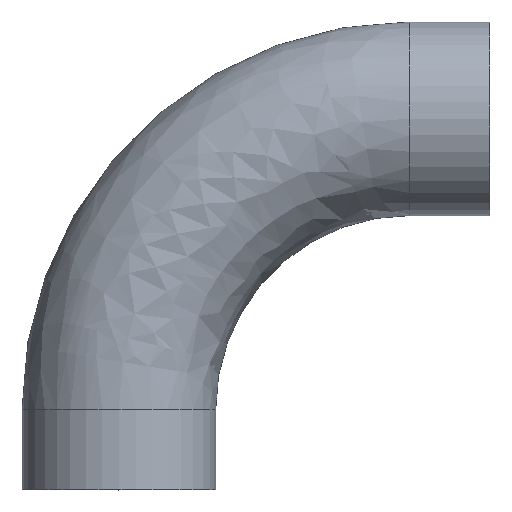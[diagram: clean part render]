
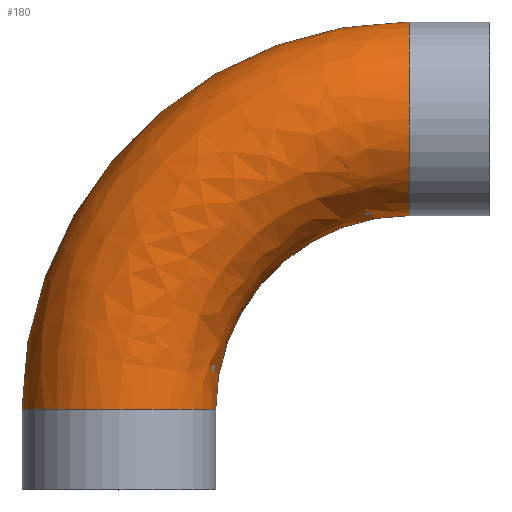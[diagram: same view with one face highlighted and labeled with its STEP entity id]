
A CAD part, top view. The second image highlights one B-rep face of the part: STEP entity #180.
In plain terms, the highlighted free-form (B-spline) face has degree [3, 3] with [4, 4] control points.
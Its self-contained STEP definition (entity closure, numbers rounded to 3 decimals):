
#4 = AXIS2_PLACEMENT_3D ( 'NONE', #211, #291, #314 ) ;
#38 = CARTESIAN_POINT ( 'NONE',  ( 228.6, 215.9, 0. ) ) ;
#50 = CARTESIAN_POINT ( 'NONE',  ( 228.6, 215.9, 0. ) ) ;
#57 = CARTESIAN_POINT ( 'NONE',  ( 76.2, 152.774, 152.4 ) ) ;
#72 = CARTESIAN_POINT ( 'NONE',  ( 139.326, 215.9, 0. ) ) ;
#89 = EDGE_CURVE ( 'NONE', #201, #189, #414, .T. ) ;
#94 = CARTESIAN_POINT ( 'NONE',  ( 0., 63.5, 0. ) ) ;
#95 = CARTESIAN_POINT ( 'NONE',  ( 228.6, 215.9, 152.4 ) ) ;
#96 = CARTESIAN_POINT ( 'NONE',  ( 76.2, 63.5, 0. ) ) ;
#98 = DIRECTION ( 'NONE',  ( 0., 1., 0. ) ) ;
#100 = DIRECTION ( 'NONE',  ( -1., 0., 0. ) ) ;
#102 = AXIS2_PLACEMENT_3D ( 'NONE', #94, #98, #100 ) ;
#111 =( BOUNDED_SURFACE ( )  B_SPLINE_SURFACE ( 3, 3, ( 
 ( #253, #244, #249, #131 ),
 ( #263, #322, #298, #410 ),
 ( #328, #57, #159, #95 ),
 ( #96, #458, #72, #38 ) ),
 .UNSPECIFIED., .F., .F., .F. ) 
 B_SPLINE_SURFACE_WITH_KNOTS ( ( 4, 4 ),
 ( 4, 4 ),
 ( 0., 1. ),
 ( 0., 1. ),
 .UNSPECIFIED. ) 
 GEOMETRIC_REPRESENTATION_ITEM ( )  RATIONAL_B_SPLINE_SURFACE ( (
 ( 1., 0.805, 0.805, 1.),
 ( 0.333, 0.268, 0.268, 0.333),
 ( 0.333, 0.268, 0.268, 0.333),
 ( 1., 0.805, 0.805, 1.) ) ) 
 REPRESENTATION_ITEM ( '' )  SURFACE ( )  );
#114 = AXIS2_PLACEMENT_3D ( 'NONE', #324, #342, #360 ) ;
#131 = CARTESIAN_POINT ( 'NONE',  ( 228.6, 368.3, 0. ) ) ;
#138 = EDGE_CURVE ( 'NONE', #189, #216, #442, .T. ) ;
#139 = ORIENTED_EDGE ( 'NONE', *, *, #299, .F. ) ;
#140 = ORIENTED_EDGE ( 'NONE', *, *, #138, .T. ) ;
#157 = CARTESIAN_POINT ( 'NONE',  ( 228.6, 63.5, 0. ) ) ;
#159 = CARTESIAN_POINT ( 'NONE',  ( 139.326, 215.9, 152.4 ) ) ;
#160 = DIRECTION ( 'NONE',  ( 0., 0., -1. ) ) ;
#165 = DIRECTION ( 'NONE',  ( -1., 0., 0. ) ) ;
#167 = VERTEX_POINT ( 'NONE', #258 ) ;
#180 = ADVANCED_FACE ( 'NONE', ( #302 ), #111, .T. ) ;
#189 = VERTEX_POINT ( 'NONE', #428 ) ;
#193 = ORIENTED_EDGE ( 'NONE', *, *, #400, .T. ) ;
#201 = VERTEX_POINT ( 'NONE', #246 ) ;
#211 = CARTESIAN_POINT ( 'NONE',  ( 228.6, 292.1, 0. ) ) ;
#216 = VERTEX_POINT ( 'NONE', #50 ) ;
#234 = CIRCLE ( 'NONE', #4, 76.2 ) ;
#244 = CARTESIAN_POINT ( 'NONE',  ( -76.2, 242.048, 0. ) ) ;
#246 = CARTESIAN_POINT ( 'NONE',  ( -76.2, 63.5, 0. ) ) ;
#249 = CARTESIAN_POINT ( 'NONE',  ( 50.052, 368.3, 0. ) ) ;
#253 = CARTESIAN_POINT ( 'NONE',  ( -76.2, 63.5, 0. ) ) ;
#258 = CARTESIAN_POINT ( 'NONE',  ( 228.6, 368.3, 0. ) ) ;
#263 = CARTESIAN_POINT ( 'NONE',  ( -76.2, 63.5, 152.4 ) ) ;
#291 = DIRECTION ( 'NONE',  ( -1., 0., 0. ) ) ;
#297 = ORIENTED_EDGE ( 'NONE', *, *, #89, .T. ) ;
#298 = CARTESIAN_POINT ( 'NONE',  ( 50.052, 368.3, 152.4 ) ) ;
#299 = EDGE_CURVE ( 'NONE', #201, #167, #334, .T. ) ;
#302 = FACE_OUTER_BOUND ( 'NONE', #343, .T. ) ;
#314 = DIRECTION ( 'NONE',  ( 0., 1., 0. ) ) ;
#322 = CARTESIAN_POINT ( 'NONE',  ( -76.2, 242.048, 152.4 ) ) ;
#324 = CARTESIAN_POINT ( 'NONE',  ( 228.6, 63.5, 0. ) ) ;
#328 = CARTESIAN_POINT ( 'NONE',  ( 76.2, 63.5, 152.4 ) ) ;
#334 = CIRCLE ( 'NONE', #114, 304.8 ) ;
#342 = DIRECTION ( 'NONE',  ( 0., 0., -1. ) ) ;
#343 = EDGE_LOOP ( 'NONE', ( #297, #140, #193, #139 ) ) ;
#360 = DIRECTION ( 'NONE',  ( -1., 0., 0. ) ) ;
#399 = AXIS2_PLACEMENT_3D ( 'NONE', #157, #160, #165 ) ;
#400 = EDGE_CURVE ( 'NONE', #216, #167, #234, .T. ) ;
#410 = CARTESIAN_POINT ( 'NONE',  ( 228.6, 368.3, 152.4 ) ) ;
#414 = CIRCLE ( 'NONE', #102, 76.2 ) ;
#428 = CARTESIAN_POINT ( 'NONE',  ( 76.2, 63.5, 0. ) ) ;
#442 = CIRCLE ( 'NONE', #399, 152.4 ) ;
#458 = CARTESIAN_POINT ( 'NONE',  ( 76.2, 152.774, 0. ) ) ;
